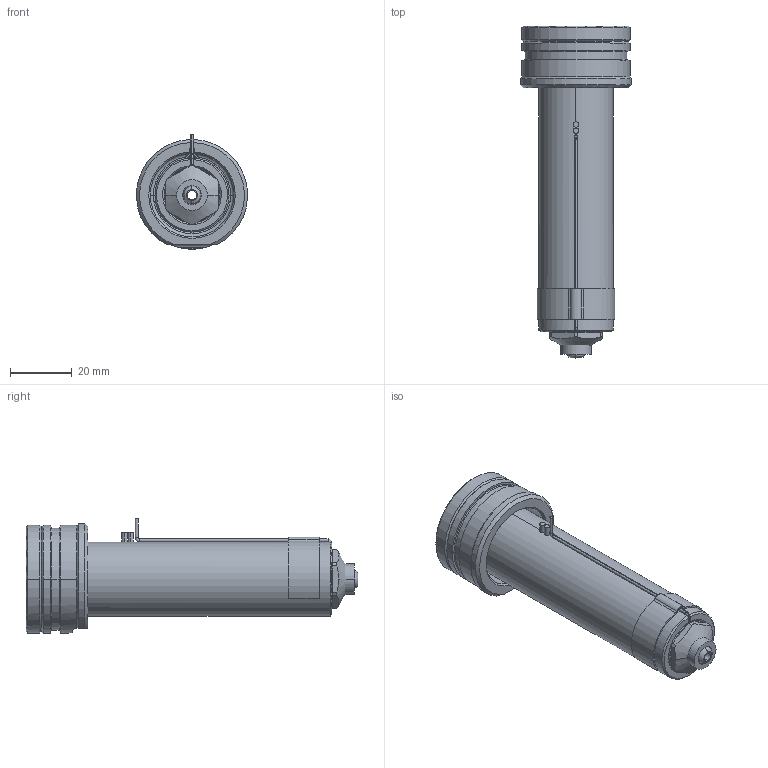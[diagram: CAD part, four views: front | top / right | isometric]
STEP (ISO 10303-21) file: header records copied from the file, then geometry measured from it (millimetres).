
FILE_DESCRIPTION((''),'2;1');
FILE_NAME('EO06_VG-BL_WR_090_SW','2024-02-19T13:03:09',('sundharh'),(''),'CREO PARAMETRIC BY PTC INC, 2023154','CREO PARAMETRIC BY PTC INC, 2023154','');
FILE_SCHEMA(('CONFIG_CONTROL_DESIGN'));
Length unit declared in the file: millimetre
Products named in the file (1): EO06_VG-BL_WR_090_SW
Bounding box: 35.93 x 107.5 x 37 mm (x, y, z)
Volume: 51417.1 mm3; surface area: 15703.1 mm2
Topology: 2 solids, 2 shells, 199 faces, 493 edges, 296 vertices
Faces by surface type: cylinder 76, plane 42, cone 36, torus 27, bspline 16, sphere 2
Entity records: 6829 total; most frequent: CARTESIAN_POINT 2053, DIRECTION 1062, ORIENTED_EDGE 974, EDGE_CURVE 487, AXIS2_PLACEMENT_3D 448, VERTEX_POINT 296, CIRCLE 265, EDGE_LOOP 213
